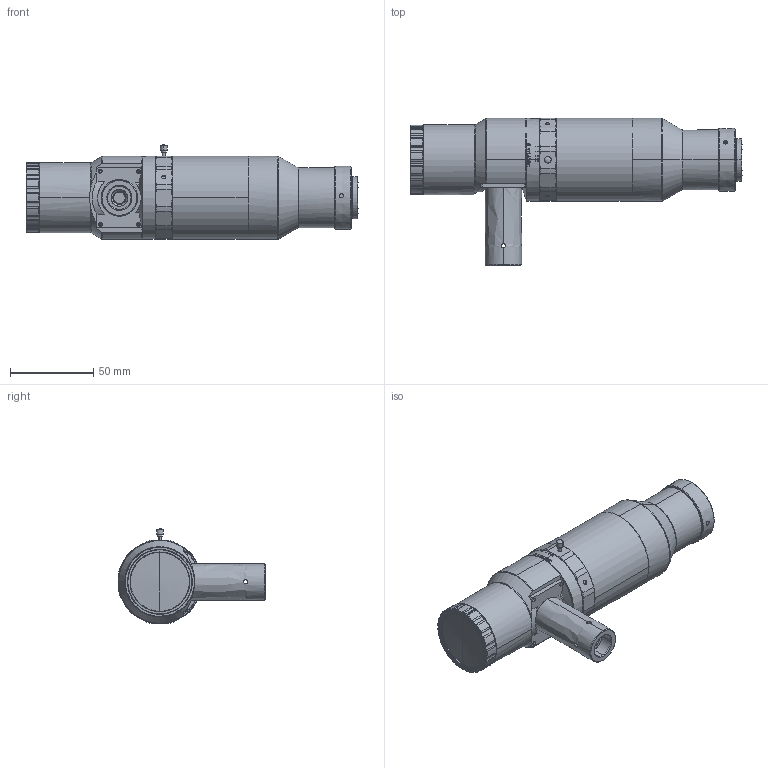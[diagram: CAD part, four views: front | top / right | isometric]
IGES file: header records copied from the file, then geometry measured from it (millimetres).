
Start section: SolidWorks IGES file using analytic representation for surfaces
Global section: file name: C:\Users\gc\Desktop\DTCA121-5C-GV2.IGS; native system: SolidWorks 2017; preprocessor: SolidWorks 2017; author: gc; date: 240410.180442; units: millimetre
Bounding box: 199.64 x 88.6 x 57.02 mm (x, y, z)
Surface area: 36809.9 mm2 (no closed solid volume)
Topology: 0 solids, 0 shells, 521 faces, 6816 edges, 6812 vertices
Faces by surface type: revolution 332, bspline 189
